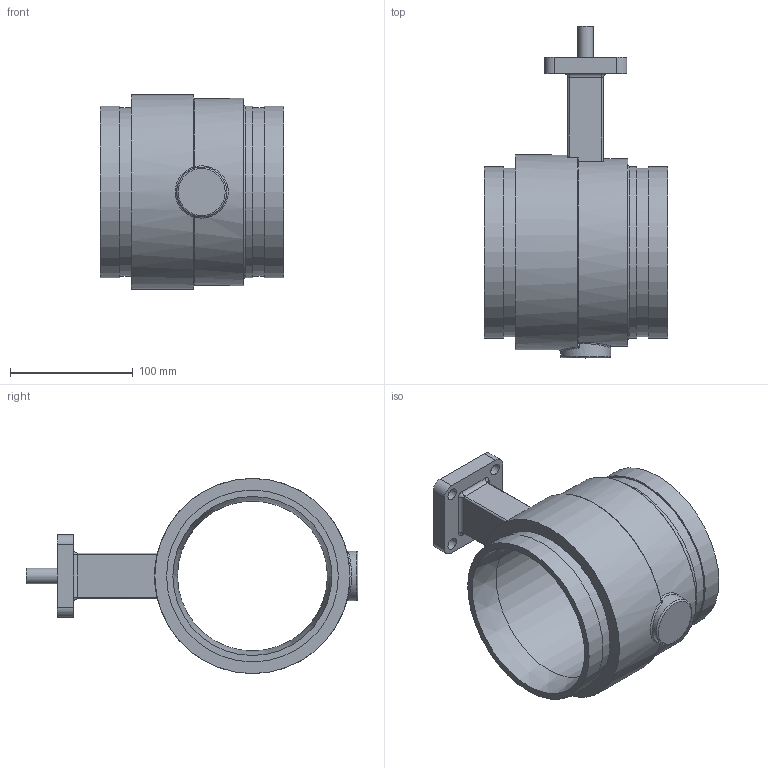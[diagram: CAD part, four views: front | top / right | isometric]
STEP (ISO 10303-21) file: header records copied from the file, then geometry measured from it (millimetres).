
FILE_DESCRIPTION(/* description */ ('Vic Series 461 Vic-300 MasterSeal SS Butterfly Valve','CAx-IF Rec.Pracs.---Representation and Presentation of Product Manufacturing Information (PMI)---4.0---2014-10-13'),/* implementation_level */ '2;1');
FILE_NAME(/* name */ 'C:\Users\kkamble\AppData\Roaming\Autodesk\ApplicationPlugins\Back Up\Victaulic_SS-OGS_Valve Butterfly Vic-300 Masterseal Bare_Series 461 (OGS)\Victaulic_SS-OGS_Valve Butterfly Vic-300 Masterseal Bare_Series 461 (OGS)_05.0 (139.7) (125).stp',/* time_stamp */ '2020-09-02T14:48:26+05:00',/* author */ ('mchristi'),/* organization */ ('Victaulic'),/* preprocessor_version */ 'ST-DEVELOPER v17.2',/* originating_system */ 'Autodesk Inventor 2019',/* authorisation */ '');
FILE_SCHEMA (('AP242_MANAGED_MODEL_BASED_3D_ENGINEERING_MIM_LF { 1 0 10303 442 1 1 4 }'));
Length unit declared in the file: inch
Products named in the file (1): 461-05.0 (139.7)
Bounding box: 149.35 x 270 x 158.75 mm (x, y, z)
Volume: 982537.9 mm3; surface area: 165774.6 mm2
Topology: 1 solids, 1 shells, 88 faces, 217 edges, 137 vertices
Faces by surface type: cylinder 35, plane 22, bspline 14, torus 13, sphere 2, cone 2
Full cylindrical faces by diameter (mm): 9.652 x4, 12.7 x1, 40.64 x1, 54.102 x1, 121.92 x1, 137.033 x2, 139.7 x3, 152.4 x1, 158.75 x1
Entity records: 3371 total; most frequent: CARTESIAN_POINT 1067, DIRECTION 479, ORIENTED_EDGE 430, EDGE_CURVE 215, AXIS2_PLACEMENT_3D 207, VERTEX_POINT 137, CIRCLE 119, EDGE_LOOP 106
